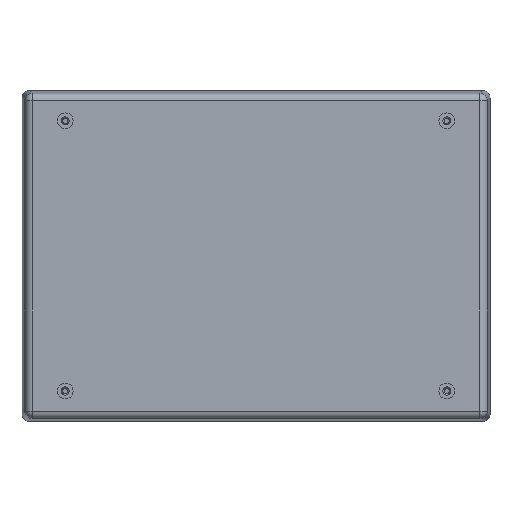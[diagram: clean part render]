
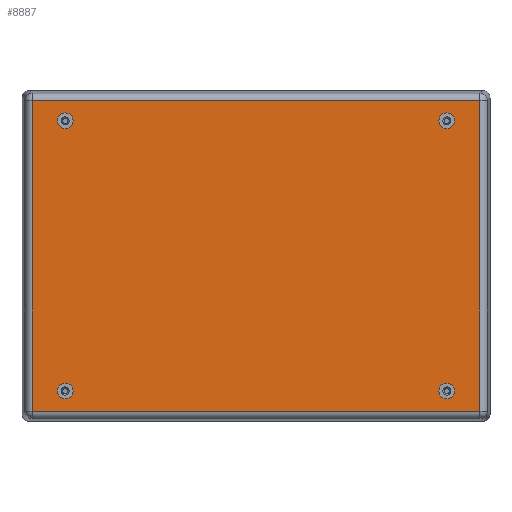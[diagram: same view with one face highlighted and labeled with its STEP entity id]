
A CAD part, front view. The second image highlights one B-rep face of the part: STEP entity #8887.
In plain terms, the highlighted planar face has unit normal (0, -1, 0).
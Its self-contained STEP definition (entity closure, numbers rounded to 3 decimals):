
#24 = VECTOR ( 'NONE', #18537, 1000. ) ;
#103 = CIRCLE ( 'NONE', #15465, 3.2 ) ;
#417 = FACE_OUTER_BOUND ( 'NONE', #2916, .T. ) ;
#684 = CARTESIAN_POINT ( 'NONE',  ( 90.26, 0., -4.14 ) ) ;
#903 = FACE_BOUND ( 'NONE', #16595, .T. ) ;
#1056 = EDGE_CURVE ( 'NONE', #4096, #8629, #6116, .T. ) ;
#1061 = EDGE_LOOP ( 'NONE', ( #8871, #4037 ) ) ;
#1254 = CARTESIAN_POINT ( 'NONE',  ( 93.057, 0., -129.36 ) ) ;
#1400 = DIRECTION ( 'NONE',  ( 0., -1., 0. ) ) ;
#1465 = CARTESIAN_POINT ( 'NONE',  ( 90.26, 0., -129.36 ) ) ;
#1478 = DIRECTION ( 'NONE',  ( 0., 0., -1. ) ) ;
#1581 = VERTEX_POINT ( 'NONE', #9357 ) ;
#1647 = DIRECTION ( 'NONE',  ( 0., 0., 1. ) ) ;
#1657 = EDGE_CURVE ( 'NONE', #6736, #16857, #16209, .T. ) ;
#1801 = VERTEX_POINT ( 'NONE', #13095 ) ;
#2094 = CIRCLE ( 'NONE', #15006, 3.2 ) ;
#2145 = CIRCLE ( 'NONE', #8338, 3.2 ) ;
#2444 = DIRECTION ( 'NONE',  ( 0., 0., -1. ) ) ;
#2916 = EDGE_LOOP ( 'NONE', ( #9645, #5733, #12976, #8484 ) ) ;
#2929 = EDGE_CURVE ( 'NONE', #4885, #10231, #7893, .T. ) ;
#3165 = DIRECTION ( 'NONE',  ( 0., -1., 0. ) ) ;
#3314 = CIRCLE ( 'NONE', #19228, 3.2 ) ;
#3529 = DIRECTION ( 'NONE',  ( 0., -1., 0. ) ) ;
#3903 = CARTESIAN_POINT ( 'NONE',  ( -80.2, 0., -12.25 ) ) ;
#3909 = CARTESIAN_POINT ( 'NONE',  ( 77., 0., -12.25 ) ) ;
#3939 = DIRECTION ( 'NONE',  ( 0., -1., 0. ) ) ;
#4001 = CIRCLE ( 'NONE', #19398, 3.2 ) ;
#4037 = ORIENTED_EDGE ( 'NONE', *, *, #18147, .F. ) ;
#4096 = VERTEX_POINT ( 'NONE', #3903 ) ;
#4403 = CARTESIAN_POINT ( 'NONE',  ( -77., 0., -12.25 ) ) ;
#4595 = FACE_BOUND ( 'NONE', #5278, .T. ) ;
#4711 = CARTESIAN_POINT ( 'NONE',  ( -73.8, 0., -12.25 ) ) ;
#4885 = VERTEX_POINT ( 'NONE', #9344 ) ;
#5027 = EDGE_CURVE ( 'NONE', #8629, #4096, #8835, .T. ) ;
#5123 = DIRECTION ( 'NONE',  ( -1., 0., 0. ) ) ;
#5278 = EDGE_LOOP ( 'NONE', ( #7112, #8496 ) ) ;
#5479 = DIRECTION ( 'NONE',  ( 1., 0., 0. ) ) ;
#5672 = CARTESIAN_POINT ( 'NONE',  ( 80.2, 0., -121.25 ) ) ;
#5733 = ORIENTED_EDGE ( 'NONE', *, *, #2929, .T. ) ;
#5982 = DIRECTION ( 'NONE',  ( 1., 0., 0. ) ) ;
#6116 = CIRCLE ( 'NONE', #12897, 3.2 ) ;
#6181 = CARTESIAN_POINT ( 'NONE',  ( 77., 0., -121.25 ) ) ;
#6407 = EDGE_CURVE ( 'NONE', #15962, #14833, #4001, .T. ) ;
#6625 = EDGE_CURVE ( 'NONE', #10231, #6736, #13116, .T. ) ;
#6736 = VERTEX_POINT ( 'NONE', #1465 ) ;
#7112 = ORIENTED_EDGE ( 'NONE', *, *, #10684, .F. ) ;
#7127 = PLANE ( 'NONE',  #19291 ) ;
#7759 = ORIENTED_EDGE ( 'NONE', *, *, #13721, .F. ) ;
#7785 = DIRECTION ( 'NONE',  ( 1., 0., 0. ) ) ;
#7893 = LINE ( 'NONE', #17174, #19503 ) ;
#8049 = VERTEX_POINT ( 'NONE', #13085 ) ;
#8178 = EDGE_LOOP ( 'NONE', ( #13497, #18241 ) ) ;
#8182 = DIRECTION ( 'NONE',  ( 0., -1., 0. ) ) ;
#8338 = AXIS2_PLACEMENT_3D ( 'NONE', #10838, #1400, #12428 ) ;
#8484 = ORIENTED_EDGE ( 'NONE', *, *, #1657, .T. ) ;
#8496 = ORIENTED_EDGE ( 'NONE', *, *, #13767, .F. ) ;
#8629 = VERTEX_POINT ( 'NONE', #4711 ) ;
#8835 = CIRCLE ( 'NONE', #10785, 3.2 ) ;
#8871 = ORIENTED_EDGE ( 'NONE', *, *, #9070, .F. ) ;
#8887 = ADVANCED_FACE ( 'NONE', ( #417, #903, #17161, #4595, #16684 ), #7127, .T. ) ;
#8957 = VERTEX_POINT ( 'NONE', #5672 ) ;
#9070 = EDGE_CURVE ( 'NONE', #8957, #1581, #2145, .T. ) ;
#9265 = ORIENTED_EDGE ( 'NONE', *, *, #6407, .F. ) ;
#9344 = CARTESIAN_POINT ( 'NONE',  ( -90.26, 0., -4.14 ) ) ;
#9357 = CARTESIAN_POINT ( 'NONE',  ( 73.8, 0., -121.25 ) ) ;
#9645 = ORIENTED_EDGE ( 'NONE', *, *, #9813, .T. ) ;
#9813 = EDGE_CURVE ( 'NONE', #16857, #4885, #14925, .T. ) ;
#10231 = VERTEX_POINT ( 'NONE', #17370 ) ;
#10684 = EDGE_CURVE ( 'NONE', #1801, #8049, #103, .T. ) ;
#10785 = AXIS2_PLACEMENT_3D ( 'NONE', #17632, #8182, #19213 ) ;
#10838 = CARTESIAN_POINT ( 'NONE',  ( 77., 0., -121.25 ) ) ;
#11881 = DIRECTION ( 'NONE',  ( 0., -1., 0. ) ) ;
#12428 = DIRECTION ( 'NONE',  ( 1., 0., 0. ) ) ;
#12605 = CARTESIAN_POINT ( 'NONE',  ( -77., 0., -121.25 ) ) ;
#12897 = AXIS2_PLACEMENT_3D ( 'NONE', #4403, #15419, #5982 ) ;
#12971 = CARTESIAN_POINT ( 'NONE',  ( 77., 0., -12.25 ) ) ;
#12976 = ORIENTED_EDGE ( 'NONE', *, *, #6625, .T. ) ;
#12993 = CARTESIAN_POINT ( 'NONE',  ( 73.8, 0., -12.25 ) ) ;
#12999 = CARTESIAN_POINT ( 'NONE',  ( -93.057, 0., -4.14 ) ) ;
#13085 = CARTESIAN_POINT ( 'NONE',  ( -80.2, 0., -121.25 ) ) ;
#13095 = CARTESIAN_POINT ( 'NONE',  ( -73.8, 0., -121.25 ) ) ;
#13116 = LINE ( 'NONE', #1254, #24 ) ;
#13383 = CARTESIAN_POINT ( 'NONE',  ( -77., 0., -121.25 ) ) ;
#13497 = ORIENTED_EDGE ( 'NONE', *, *, #5027, .F. ) ;
#13721 = EDGE_CURVE ( 'NONE', #14833, #15962, #2094, .T. ) ;
#13767 = EDGE_CURVE ( 'NONE', #8049, #1801, #3314, .T. ) ;
#14173 = DIRECTION ( 'NONE',  ( 1., 0., 0. ) ) ;
#14418 = VECTOR ( 'NONE', #5123, 1000. ) ;
#14527 = DIRECTION ( 'NONE',  ( 1., 0., 0. ) ) ;
#14833 = VERTEX_POINT ( 'NONE', #12993 ) ;
#14920 = DIRECTION ( 'NONE',  ( 0., -1., 0. ) ) ;
#14925 = LINE ( 'NONE', #12999, #14418 ) ;
#14950 = DIRECTION ( 'NONE',  ( 1., 0., 0. ) ) ;
#15006 = AXIS2_PLACEMENT_3D ( 'NONE', #12971, #3529, #14527 ) ;
#15209 = CIRCLE ( 'NONE', #18378, 3.2 ) ;
#15419 = DIRECTION ( 'NONE',  ( 0., -1., 0. ) ) ;
#15465 = AXIS2_PLACEMENT_3D ( 'NONE', #12605, #3165, #14173 ) ;
#15962 = VERTEX_POINT ( 'NONE', #18674 ) ;
#16209 = LINE ( 'NONE', #17414, #19918 ) ;
#16595 = EDGE_LOOP ( 'NONE', ( #9265, #7759 ) ) ;
#16684 = FACE_BOUND ( 'NONE', #8178, .T. ) ;
#16857 = VERTEX_POINT ( 'NONE', #684 ) ;
#17161 = FACE_BOUND ( 'NONE', #1061, .T. ) ;
#17174 = CARTESIAN_POINT ( 'NONE',  ( -90.26, 0., -132.157 ) ) ;
#17208 = DIRECTION ( 'NONE',  ( 0., -1., 0. ) ) ;
#17370 = CARTESIAN_POINT ( 'NONE',  ( -90.26, 0., -129.36 ) ) ;
#17414 = CARTESIAN_POINT ( 'NONE',  ( 90.26, 0., -1.343 ) ) ;
#17632 = CARTESIAN_POINT ( 'NONE',  ( -77., 0., -12.25 ) ) ;
#18147 = EDGE_CURVE ( 'NONE', #1581, #8957, #15209, .T. ) ;
#18241 = ORIENTED_EDGE ( 'NONE', *, *, #1056, .F. ) ;
#18378 = AXIS2_PLACEMENT_3D ( 'NONE', #6181, #17208, #7785 ) ;
#18537 = DIRECTION ( 'NONE',  ( 1., 0., 0. ) ) ;
#18674 = CARTESIAN_POINT ( 'NONE',  ( 80.2, 0., -12.25 ) ) ;
#19213 = DIRECTION ( 'NONE',  ( 1., 0., 0. ) ) ;
#19228 = AXIS2_PLACEMENT_3D ( 'NONE', #13383, #3939, #14950 ) ;
#19291 = AXIS2_PLACEMENT_3D ( 'NONE', #19741, #11881, #2444 ) ;
#19398 = AXIS2_PLACEMENT_3D ( 'NONE', #3909, #14920, #5479 ) ;
#19503 = VECTOR ( 'NONE', #1478, 1000. ) ;
#19741 = CARTESIAN_POINT ( 'NONE',  ( -94.4, 0., -133.5 ) ) ;
#19918 = VECTOR ( 'NONE', #1647, 1000. ) ;
